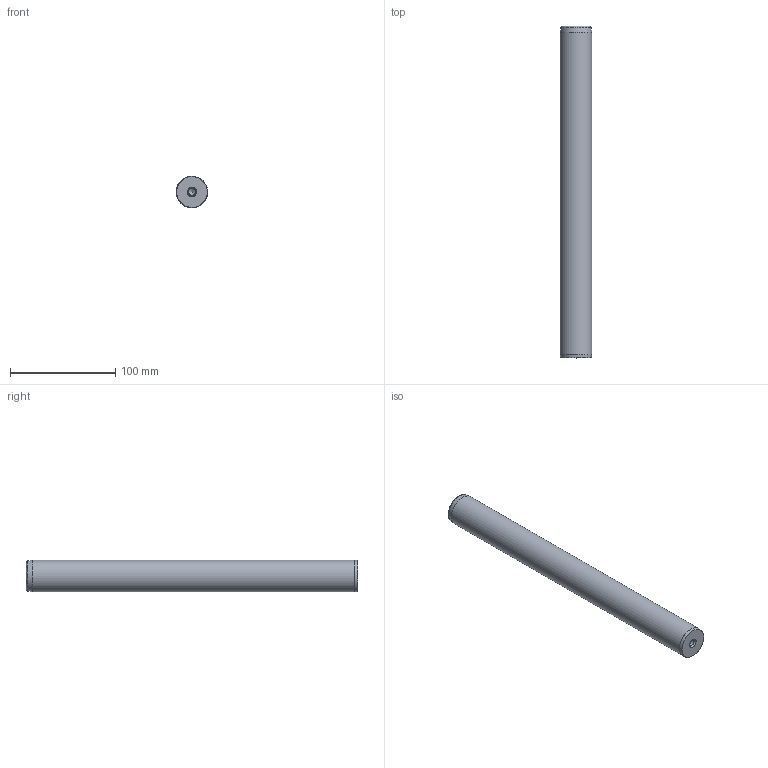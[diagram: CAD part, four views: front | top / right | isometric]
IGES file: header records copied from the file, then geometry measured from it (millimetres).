
Start section: Missler Software BP 521, 31674 Labege Cedex, France Tel   : +33 (0)5 61 00 03 00 Fax   : +33 (0)5 61 00 03 03 Email : sup.topsolid@topsolid.com
Global section: file name: D:\Cuma\D14\D14_30315.igs; native system: TopSolid v605250 Missler Software; preprocessor: IGES preprocessor v100000; date: 030120.193304; units: millimetre
Bounding box: 29.99 x 315 x 30 mm (x, y, z)
Surface area: 32076.3 mm2 (no closed solid volume)
Topology: 0 solids, 0 shells, 14 faces, 145 edges, 136 vertices
Faces by surface type: bspline 14
